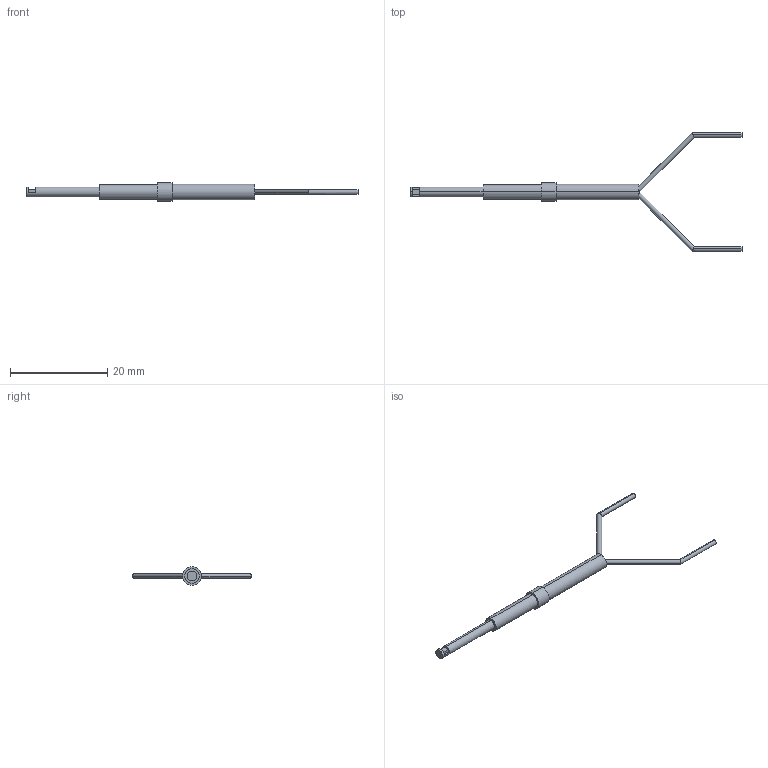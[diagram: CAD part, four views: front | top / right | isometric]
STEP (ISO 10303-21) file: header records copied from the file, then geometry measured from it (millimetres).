
FILE_DESCRIPTION (( 'STEP AP203' ), '1' );
FILE_NAME ('FD-WV42.STEP', '2005-09-04T10:31:20', ( '川島良英' ), ( ' ' ), 'SwSTEP 2.0', 'SolidWorks 2004251', '' );
FILE_SCHEMA (( 'CONFIG_CONTROL_DESIGN' ));
Length unit declared in the file: millimetre
Products named in the file (1): FD-WV42
Bounding box: 68.21 x 24.42 x 3.8 mm (x, y, z)
Volume: 315.2 mm3; surface area: 817.8 mm2
Topology: 3 solids, 3 shells, 39 faces, 83 edges, 54 vertices
Faces by surface type: cylinder 22, plane 17
Entity records: 1130 total; most frequent: CARTESIAN_POINT 213, DIRECTION 183, ORIENTED_EDGE 166, EDGE_CURVE 83, AXIS2_PLACEMENT_3D 72, VERTEX_POINT 54, EDGE_LOOP 43, ADVANCED_FACE 39
